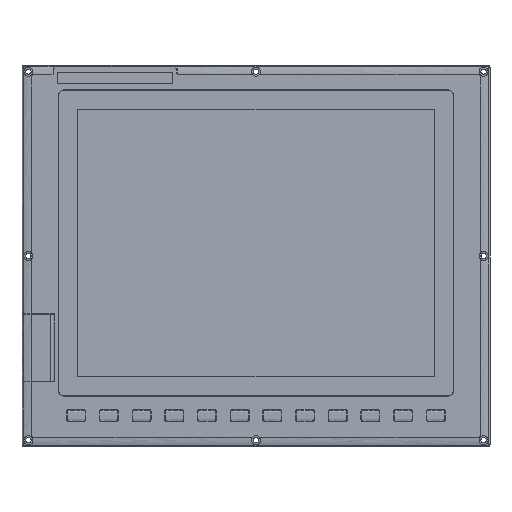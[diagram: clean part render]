
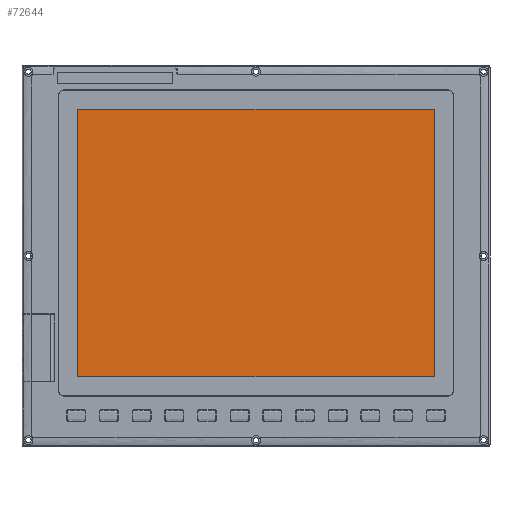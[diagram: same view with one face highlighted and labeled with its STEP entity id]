
A CAD part, top view. The second image highlights one B-rep face of the part: STEP entity #72644.
In plain terms, the highlighted planar face has unit normal (0, 0, 1).
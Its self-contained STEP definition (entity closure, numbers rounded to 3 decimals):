
#4163 = DIRECTION ( 'NONE',  ( 0., -1., 0. ) ) ;
#5495 = PLANE ( 'NONE',  #23630 ) ;
#7269 = ORIENTED_EDGE ( 'NONE', *, *, #63052, .T. ) ;
#11179 = CARTESIAN_POINT ( 'NONE',  ( 376.972, 226.668, 230.862 ) ) ;
#12197 = DIRECTION ( 'NONE',  ( 1., 0., 0. ) ) ;
#13763 = VECTOR ( 'NONE', #4163, 1000. ) ;
#15178 = CARTESIAN_POINT ( 'NONE',  ( 71.972, 455.568, 230.862 ) ) ;
#15190 = VECTOR ( 'NONE', #81765, 1000. ) ;
#19184 = VECTOR ( 'NONE', #68592, 1000. ) ;
#19659 = VERTEX_POINT ( 'NONE', #20694 ) ;
#20694 = CARTESIAN_POINT ( 'NONE',  ( 71.972, 226.668, 230.862 ) ) ;
#23630 = AXIS2_PLACEMENT_3D ( 'NONE', #65086, #51995, #12197 ) ;
#26910 = VERTEX_POINT ( 'NONE', #30146 ) ;
#27396 = EDGE_CURVE ( 'NONE', #79833, #26910, #68193, .T. ) ;
#30146 = CARTESIAN_POINT ( 'NONE',  ( 376.972, 455.568, 230.862 ) ) ;
#36888 = LINE ( 'NONE', #15178, #19184 ) ;
#39358 = EDGE_CURVE ( 'NONE', #26910, #39596, #36888, .T. ) ;
#39596 = VERTEX_POINT ( 'NONE', #55704 ) ;
#43326 = EDGE_LOOP ( 'NONE', ( #7269, #50080, #61681, #44303 ) ) ;
#44303 = ORIENTED_EDGE ( 'NONE', *, *, #39358, .T. ) ;
#49116 = LINE ( 'NONE', #50693, #13763 ) ;
#50080 = ORIENTED_EDGE ( 'NONE', *, *, #72181, .T. ) ;
#50693 = CARTESIAN_POINT ( 'NONE',  ( 71.972, 455.568, 230.862 ) ) ;
#51995 = DIRECTION ( 'NONE',  ( 0., 0., 1. ) ) ;
#55704 = CARTESIAN_POINT ( 'NONE',  ( 71.972, 455.568, 230.862 ) ) ;
#61681 = ORIENTED_EDGE ( 'NONE', *, *, #27396, .T. ) ;
#63052 = EDGE_CURVE ( 'NONE', #39596, #19659, #49116, .T. ) ;
#64468 = FACE_OUTER_BOUND ( 'NONE', #43326, .T. ) ;
#65086 = CARTESIAN_POINT ( 'NONE',  ( 224.472, 341.118, 230.862 ) ) ;
#66881 = CARTESIAN_POINT ( 'NONE',  ( 71.972, 226.668, 230.862 ) ) ;
#68193 = LINE ( 'NONE', #75092, #15190 ) ;
#68592 = DIRECTION ( 'NONE',  ( -1., 0., 0. ) ) ;
#72181 = EDGE_CURVE ( 'NONE', #19659, #79833, #75930, .T. ) ;
#72644 = ADVANCED_FACE ( 'NONE', ( #64468 ), #5495, .T. ) ;
#73543 = DIRECTION ( 'NONE',  ( 1., 0., 0. ) ) ;
#73842 = VECTOR ( 'NONE', #73543, 1000. ) ;
#75092 = CARTESIAN_POINT ( 'NONE',  ( 376.972, 455.568, 230.862 ) ) ;
#75930 = LINE ( 'NONE', #66881, #73842 ) ;
#79833 = VERTEX_POINT ( 'NONE', #11179 ) ;
#81765 = DIRECTION ( 'NONE',  ( 0., 1., 0. ) ) ;
